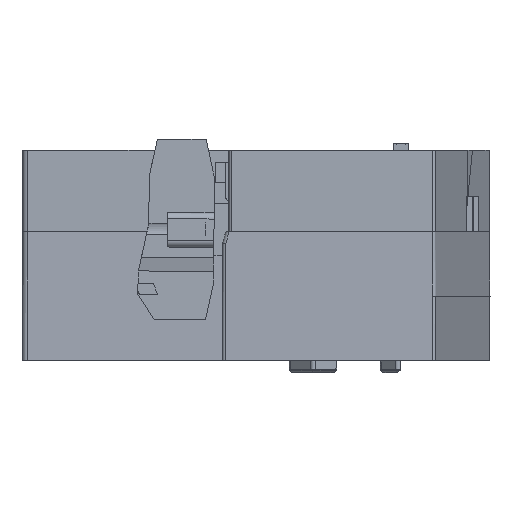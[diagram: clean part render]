
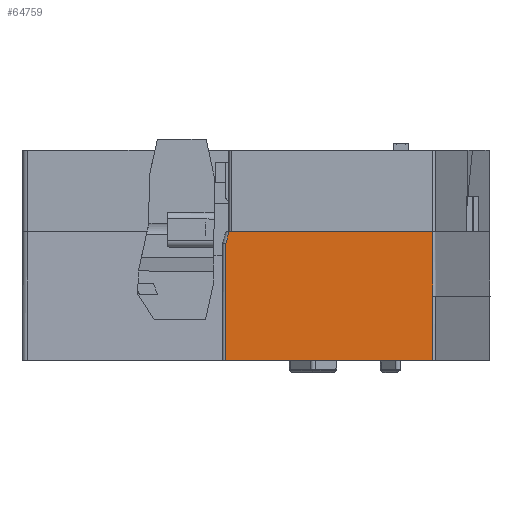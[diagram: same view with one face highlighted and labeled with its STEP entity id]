
A CAD part, left-side view. The second image highlights one B-rep face of the part: STEP entity #64759.
In plain terms, the highlighted planar face has unit normal (-1, 0, 0.004).
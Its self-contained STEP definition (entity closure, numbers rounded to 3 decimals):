
#54811=CARTESIAN_POINT('',(-53.4,-0.017,20.29));
#54812=VERTEX_POINT('',#54811);
#54823=CARTESIAN_POINT('',(-53.4,-32.492,20.29));
#54824=VERTEX_POINT('',#54823);
#54825=CARTESIAN_POINT('',(-53.4,-0.017,20.29));
#54826=DIRECTION('',(0.0,-1.0,0.0));
#54827=VECTOR('',#54826,32.475);
#54828=LINE('',#54825,#54827);
#54829=EDGE_CURVE('',#54812,#54824,#54828,.T.);
#56409=CARTESIAN_POINT('',(-53.49,-32.473,-0.21));
#56410=VERTEX_POINT('',#56409);
#56418=CARTESIAN_POINT('',(-53.49,0.589,-0.21));
#56419=VERTEX_POINT('',#56418);
#56420=CARTESIAN_POINT('',(-53.49,0.589,-0.21));
#56421=DIRECTION('',(0.0,-1.0,0.0));
#56422=VECTOR('',#56421,33.062);
#56423=LINE('',#56420,#56422);
#56424=EDGE_CURVE('',#56419,#56410,#56423,.T.);
#64722=CARTESIAN_POINT('',(-53.4,-0.5,20.29));
#64723=DIRECTION('',(-1.,0.,0.004));
#64724=DIRECTION('',(0.004,0.,1.));
#64725=AXIS2_PLACEMENT_3D('',#64722,#64723,#64724);
#64726=PLANE('',#64725);
#64727=CARTESIAN_POINT('',(-53.445,-32.574,10.042));
#64728=VERTEX_POINT('',#64727);
#64729=CARTESIAN_POINT('',(-53.49,-32.473,-0.21));
#64730=DIRECTION('',(0.004,-0.01,1.));
#64731=VECTOR('',#64730,10.253);
#64732=LINE('',#64729,#64731);
#64733=EDGE_CURVE('',#56410,#64728,#64732,.T.);
#64734=ORIENTED_EDGE('',*,*,#64733,.T.);
#64735=CARTESIAN_POINT('',(-53.445,-32.574,10.042));
#64736=DIRECTION('',(0.004,0.008,1.));
#64737=VECTOR('',#64736,10.248);
#64738=LINE('',#64735,#64737);
#64739=EDGE_CURVE('',#64728,#54824,#64738,.T.);
#64740=ORIENTED_EDGE('',*,*,#64739,.T.);
#64741=ORIENTED_EDGE('',*,*,#54829,.F.);
#64742=CARTESIAN_POINT('',(-53.409,0.509,18.328));
#64743=VERTEX_POINT('',#64742);
#64744=CARTESIAN_POINT('',(-53.4,-0.017,20.29));
#64745=DIRECTION('',(-0.004,0.259,-0.966));
#64746=VECTOR('',#64745,2.031);
#64747=LINE('',#64744,#64746);
#64748=EDGE_CURVE('',#54812,#64743,#64747,.T.);
#64749=ORIENTED_EDGE('',*,*,#64748,.T.);
#64750=CARTESIAN_POINT('',(-53.409,0.509,18.328));
#64751=DIRECTION('',(-0.004,0.004,-1.));
#64752=VECTOR('',#64751,18.539);
#64753=LINE('',#64750,#64752);
#64754=EDGE_CURVE('',#64743,#56419,#64753,.T.);
#64755=ORIENTED_EDGE('',*,*,#64754,.T.);
#64756=ORIENTED_EDGE('',*,*,#56424,.T.);
#64757=EDGE_LOOP('',(#64734,#64740,#64741,#64749,#64755,#64756));
#64758=FACE_OUTER_BOUND('',#64757,.T.);
#64759=ADVANCED_FACE('',(#64758),#64726,.T.);
